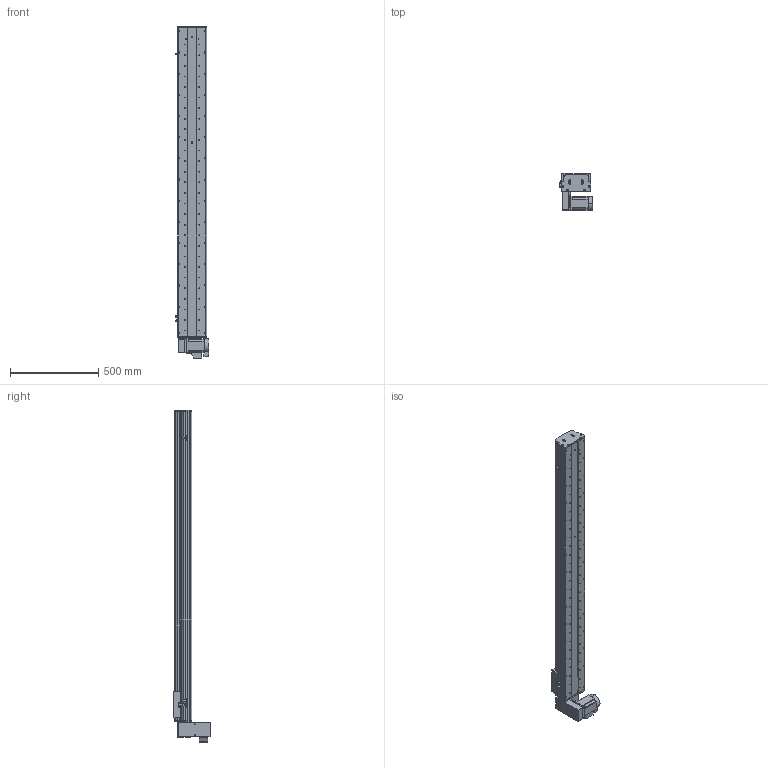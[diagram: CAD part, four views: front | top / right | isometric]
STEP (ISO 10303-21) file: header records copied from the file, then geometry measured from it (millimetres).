
FILE_DESCRIPTION (( 'STEP AP214' ), '1' );
FILE_NAME ('KSD165B-S1500-MLD-CM.STEP', '2017-10-16T07:30:48', ( '微软用户' ), ( '微软中国' ), 'SwSTEP 2.0', 'SolidWorks 2014', '' );
FILE_SCHEMA (( 'AUTOMOTIVE_DESIGN' ));
Length unit declared in the file: millimetre
Products named in the file (17): KSD165模组-后端板1-同步带; KSD165模组-同步带滑动座-最新版; KSD165B-S1500-MLD-CM; 130宽模组马达安装板连板上下折丝杆同步带; 130宽模组保护罩上下左右折-同步带; HTPA26S5M250-A-H8 750W萇儂蚚; HTPA26S5M250-A-H8 400W萇儂蚚 ; 165宽马达安装板同步带左-改; KSD165模组-同步带防尘盖1-1500行程; KSD165模组同步带底板-1500行程; 拸秶雄ん750W侜督萇儂; U倰嫖萇假蚾璃; U倰嫖萇EEㄜSX672; 覜茼え68遵圉猾敕; KSD165模组-同步带-防撞垫2; KSD165模组同步带-防撞垫1; KSD165耀郪-ヶ傷啣1-肮祭湍
Assembly tree (20 placements, depth 2):
  KSD165B-S1500-MLD-CM
    KSD165模组-同步带滑动座-最新版
    KSD165模组-后端板1-同步带
    KSD165耀郪-ヶ傷啣1-肮祭湍
    KSD165模组同步带-防撞垫1
    KSD165模组-同步带-防撞垫2
    覜茼え68遵圉猾敕
    U倰嫖萇EEㄜSX672  x3
    U倰嫖萇假蚾璃  x3
    拸秶雄ん750W侜督萇儂
    KSD165模组同步带底板-1500行程
    KSD165模组-同步带防尘盖1-1500行程
    165宽马达安装板同步带左-改
    HTPA26S5M250-A-H8 400W萇儂蚚 
    HTPA26S5M250-A-H8 750W萇儂蚚
    130宽模组保护罩上下左右折-同步带
    130宽模组马达安装板连板上下折丝杆同步带
Bounding box: 191.2 x 210 x 1881 mm (x, y, z)
Volume: 10173288.9 mm3; surface area: 2372870.3 mm2
Topology: 21 solids, 22 shells, 2051 faces, 5802 edges, 3792 vertices
Faces by surface type: cylinder 1341, plane 598, cone 112
Entity records: 67424 total; most frequent: CARTESIAN_POINT 13818, DIRECTION 11010, ORIENTED_EDGE 10264, EDGE_CURVE 5132, AXIS2_PLACEMENT_3D 4334, VERTEX_POINT 3384, CIRCLE 2480, LINE 2342
